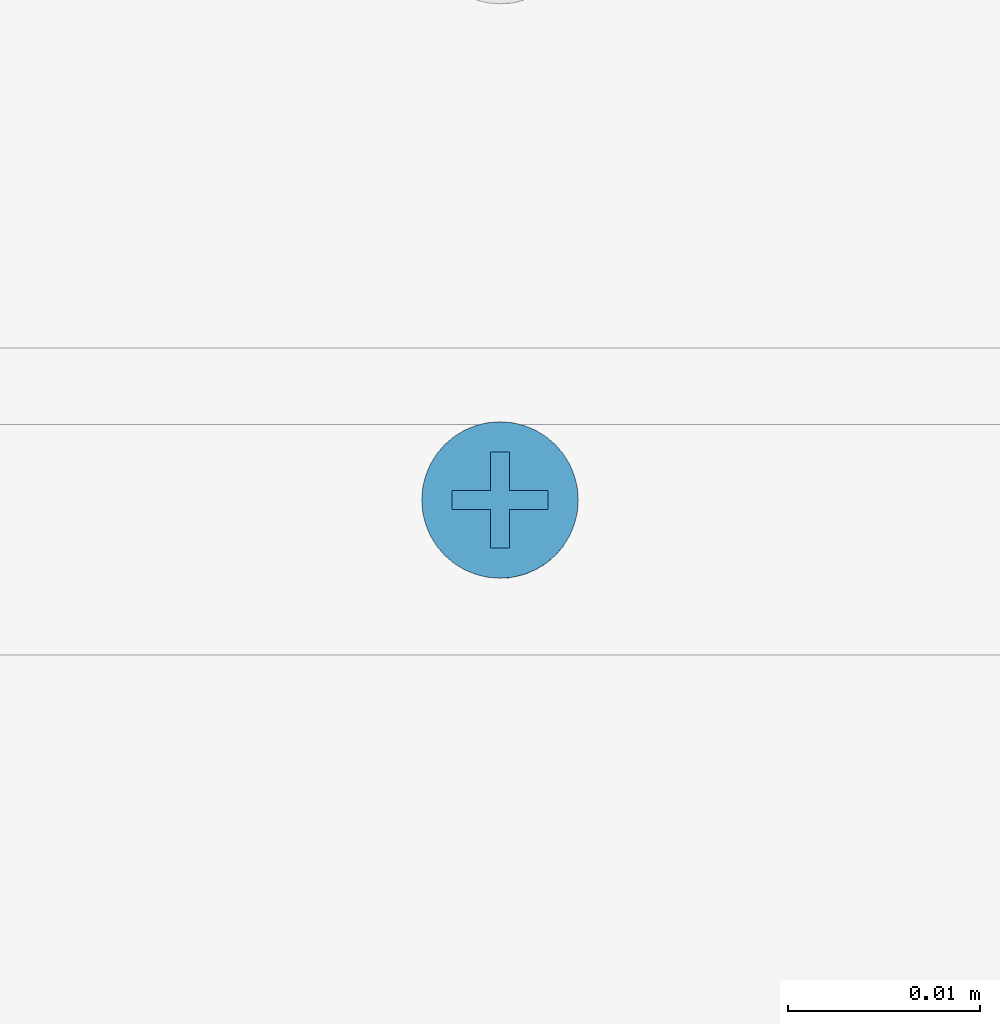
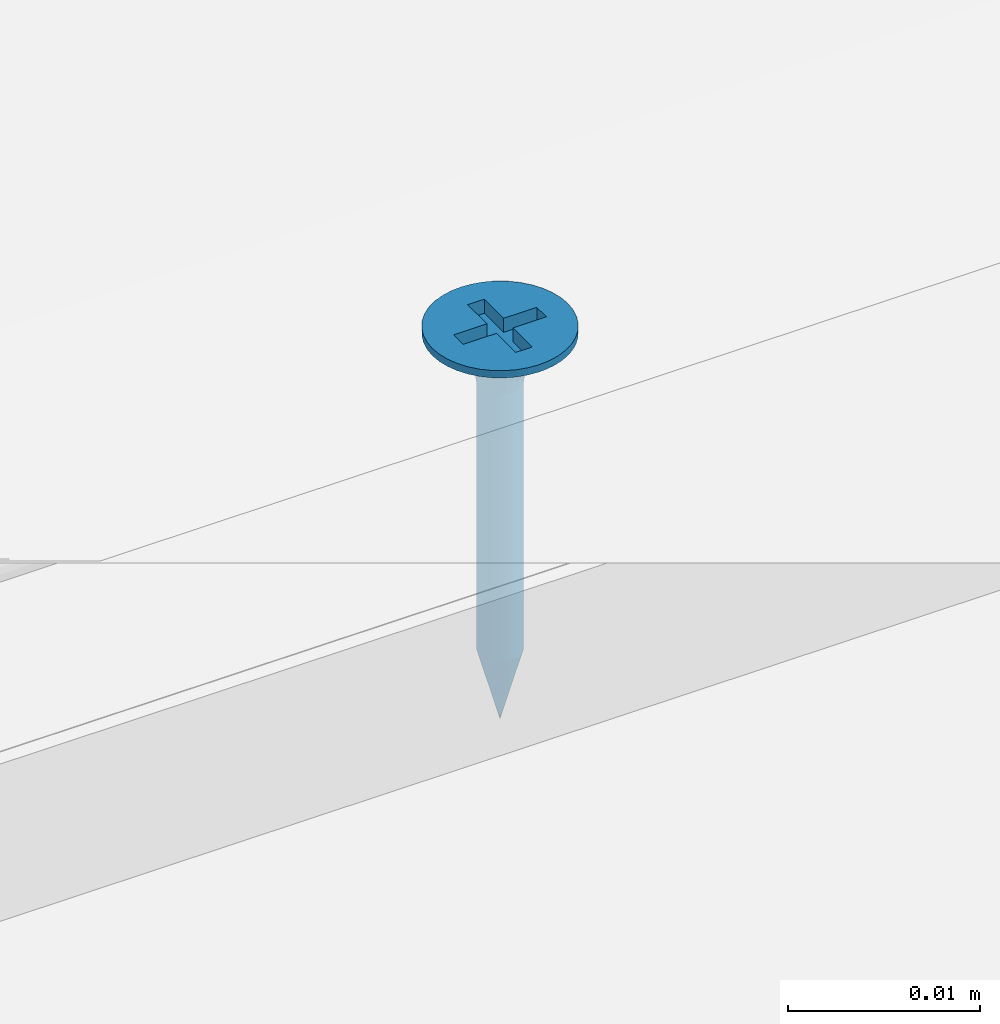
# One storey, part 12 of 38: 1 slab.
"""IFC2X3 building model written with IfcOpenShell, lengths in millimetres."""

from ifc_helpers import new_model, entity, si_unit, converted_unit, direction, frame, origin, origin_with_axes, place, context, project, spatial, faceted_brep, element, save


model = new_model("IFC2X3")

# Units and contexts
model_context = context("Model", 3, precision=1e-05, world=origin(), true_north=direction((0.0, 1.0, 0.0)))
ifc_project = project(units=[si_unit("LENGTHUNIT", "METRE", prefix="MILLI"), si_unit("AREAUNIT", "SQUARE_METRE"), si_unit("VOLUMEUNIT", "CUBIC_METRE"), converted_unit("PLANEANGLEUNIT", "DEGREE", entity("IfcPlaneAngleMeasure", 0.01745), si_unit("PLANEANGLEUNIT", "RADIAN"), dimensions=[0, 0, 0, 0, 0, 0, 0]), si_unit("SOLIDANGLEUNIT", "STERADIAN"), si_unit("MASSUNIT", "GRAM"), si_unit("TIMEUNIT", "SECOND"), si_unit("THERMODYNAMICTEMPERATUREUNIT", "DEGREE_CELSIUS"), si_unit("LUMINOUSINTENSITYUNIT", "LUMEN")], contexts=[model_context])

# Site, building, storey
site_placement = place(None, origin_with_axes())
site = spatial("IfcSite", under=ifc_project, at=site_placement, Name="Default Site", CompositionType="ELEMENT")
building_placement = place(site_placement, origin_with_axes())
building = spatial("IfcBuilding", under=site, at=building_placement, Name="Default Building", CompositionType="ELEMENT")
storey_placement = place(building_placement, origin_with_axes())
storey = spatial("IfcBuildingStorey", under=building, at=storey_placement, Name="Default Building Storey", CompositionType="ELEMENT", Elevation=0.0)

# Slab
slab_placement = place(storey_placement, frame((2135.048962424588, 928.4586075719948, -3328.636918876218), z_axis=(-3.700634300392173e-13, 1.0, -1.897141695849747e-12), x_axis=(-1.0, -3.700634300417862e-13, -1.354137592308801e-12)))
element("IfcSlab", 1, at=slab_placement, inside=storey, Name="Wkręt RIGIPS Rigidur 3,9x19 mm", context=model_context, shape_type="Brep", body=[
    faceted_brep([(-141.5377463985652, 3390.556721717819, 555.8000000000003), (-141.5377463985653, 3391.020944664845, 555.8000000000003), (-141.4875329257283, 3391.020944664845, 555.1619773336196), (-141.4875329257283, 3390.556721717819, 555.1619773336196), (-141.3381289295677, 3391.020944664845, 554.5396649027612), (-141.3381289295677, 3390.556721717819, 554.5396649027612), (-141.0932132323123, 3391.020944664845, 553.9483861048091), (-141.0932132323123, 3390.556721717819, 553.9483861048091), (-140.7588164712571, 3391.020944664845, 553.4027001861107), (-140.7588164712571, 3390.556721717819, 553.4027001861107), (-140.3431726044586, 3391.020944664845, 552.9160437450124), (-140.4541727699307, 3390.556721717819, 553.0314907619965), (-140.1080097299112, 3390.556721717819, 552.6986614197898), (-139.8565161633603, 3391.020944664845, 552.5003998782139), (-139.7251262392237, 3390.556721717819, 552.4088262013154), (-139.310830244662, 3391.020944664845, 552.1660031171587), (-139.310830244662, 3390.556721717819, 552.1660031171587), (-138.8708651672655, 3390.556721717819, 551.9735584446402), (-138.7195514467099, 3391.020944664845, 551.9210874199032), (-138.4113302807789, 3390.556721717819, 551.8341600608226), (-137.9385961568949, 3390.556721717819, 551.7497404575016), (-138.0972390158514, 3391.020944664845, 551.7716834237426), (-137.4592163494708, 3391.020944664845, 551.7214699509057), (-137.4592163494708, 3390.556721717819, 551.7214699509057), (-136.8211936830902, 3391.020944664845, 551.7716834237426), (-136.8211936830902, 3390.556721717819, 551.7716834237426), (-136.1988812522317, 3391.020944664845, 551.9210874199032), (-136.1988812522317, 3390.556721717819, 551.9210874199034), (-135.6076024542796, 3391.020944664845, 552.1660031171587), (-135.6076024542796, 3390.556721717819, 552.1660031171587), (-135.0619165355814, 3391.020944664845, 552.5003998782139), (-135.0619165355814, 3390.556721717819, 552.5003998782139), (-134.575260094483, 3391.020944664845, 552.9160437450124), (-134.575260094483, 3390.556721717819, 552.9160437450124), (-134.1596162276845, 3391.020944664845, 553.4027001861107), (-134.1596162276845, 3390.556721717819, 553.4027001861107), (-133.8252194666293, 3391.020944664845, 553.9483861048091), (-133.8252194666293, 3390.556721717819, 553.9483861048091), (-133.5803037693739, 3391.020944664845, 554.5396649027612), (-133.5803037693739, 3390.556721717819, 554.5396649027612), (-133.4308997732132, 3391.020944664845, 556.4380226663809), (-133.4308997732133, 3390.556721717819, 556.4380226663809), (-133.3806863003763, 3390.556721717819, 555.8000000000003), (-133.3806863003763, 3391.020944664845, 555.8000000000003), (-133.4308997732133, 3390.556721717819, 555.1619773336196), (-133.4308997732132, 3391.020944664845, 555.1619773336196), (-133.5803037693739, 3391.020944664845, 557.0603350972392), (-133.5803037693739, 3390.556721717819, 557.0603350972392), (-133.8252194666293, 3391.020944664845, 557.6516138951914), (-133.8252194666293, 3390.556721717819, 557.6516138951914), (-134.1596162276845, 3391.020944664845, 558.1972998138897), (-134.1596162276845, 3390.556721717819, 558.1972998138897), (-134.575260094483, 3391.020944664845, 558.683956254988), (-134.575260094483, 3390.556721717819, 558.683956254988), (-135.0619165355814, 3391.020944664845, 559.0996001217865), (-135.0619165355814, 3390.556721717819, 559.0996001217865), (-135.6076024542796, 3391.020944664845, 559.4339968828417), (-135.6076024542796, 3390.556721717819, 559.4339968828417), (-136.1988812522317, 3391.020944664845, 559.6789125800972), (-136.1988812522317, 3390.556721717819, 559.6789125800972), (-136.8211936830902, 3391.020944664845, 559.8283165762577), (-136.8211936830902, 3390.556721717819, 559.8283165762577), (-137.4592163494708, 3391.020944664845, 559.8785300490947), (-137.4592163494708, 3390.556721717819, 559.8785300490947), (-138.0972390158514, 3391.020944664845, 559.8283165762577), (-138.0972390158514, 3390.556721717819, 559.8283165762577), (-138.7195514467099, 3391.020944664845, 559.6789125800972), (-138.7195514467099, 3390.556721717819, 559.6789125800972), (-139.310830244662, 3391.020944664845, 559.4339968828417), (-139.310830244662, 3390.556721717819, 559.4339968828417), (-139.8565161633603, 3391.020944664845, 559.0996001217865), (-139.8565161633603, 3390.556721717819, 559.0996001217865), (-140.3431726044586, 3391.020944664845, 558.683956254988), (-140.3431726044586, 3390.556721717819, 558.683956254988), (-140.7588164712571, 3391.020944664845, 558.1972998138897), (-140.7588164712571, 3390.556721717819, 558.1972998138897), (-141.0932132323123, 3391.020944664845, 557.6516138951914), (-141.0932132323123, 3390.556721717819, 557.6516138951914), (-141.3381289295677, 3391.020944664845, 557.0603350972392), (-141.3381289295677, 3390.556721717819, 557.0603350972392), (-141.4875329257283, 3391.020944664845, 556.4380226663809), (-141.4875329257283, 3390.556721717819, 556.4380226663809), (-137.80606154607, 3388.229732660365, 554.5055560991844), (-137.4592163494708, 3387.475459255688, 554.5693795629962), (-137.6517277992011, 3387.475459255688, 554.5845305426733), (-137.4592163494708, 3388.229732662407, 554.4598930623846), (-137.8394989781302, 3387.475459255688, 554.6296104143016), (-138.1292698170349, 3388.229732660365, 554.639433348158), (-138.0179063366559, 3387.475459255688, 554.7035091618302), (-138.1825568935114, 3387.475459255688, 554.804407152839), (-138.4068150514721, 3388.229732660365, 554.8524012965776), (-138.3293964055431, 3387.475459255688, 554.929819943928), (-138.6197830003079, 3388.229732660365, 555.1299465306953), (-138.4548091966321, 3387.475459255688, 555.0766594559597), (-138.5557071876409, 3387.475459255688, 555.2413100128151), (-138.7536602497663, 3388.229732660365, 555.4531548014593), (-138.6296059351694, 3387.475459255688, 555.4197173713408), (-138.6746858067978, 3387.475459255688, 555.60748855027), (-138.7993232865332, 3388.229732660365, 555.7999999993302), (-138.6898367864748, 3387.475459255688, 555.8000000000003), (-138.753660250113, 3388.229732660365, 556.1468451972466), (-138.6746858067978, 3387.475459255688, 555.9925114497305), (-138.6296059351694, 3387.475459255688, 556.1802826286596), (-138.619783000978, 3388.229732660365, 556.4700534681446), (-138.5557071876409, 3387.475459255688, 556.3586899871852), (-138.4548091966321, 3387.475459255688, 556.5233405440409), (-138.4068150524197, 3388.229732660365, 556.7475987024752), (-138.3293964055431, 3387.475459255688, 556.6701800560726), (-138.1292698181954, 3388.229732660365, 556.9605666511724), (-138.1825568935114, 3387.475459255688, 556.7955928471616), (-138.0179063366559, 3387.475459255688, 556.8964908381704), (-137.8060615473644, 3388.229732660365, 557.0944439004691), (-137.8394989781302, 3387.475459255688, 556.9703895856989), (-137.6517277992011, 3387.475459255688, 557.0154694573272), (-137.4592163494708, 3388.229732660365, 557.1401069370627), (-137.4592163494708, 3387.475459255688, 557.0306204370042), (-137.1123711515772, 3388.229732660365, 557.0944439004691), (-137.2667048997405, 3387.475459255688, 557.0154694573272), (-137.0789337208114, 3387.475459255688, 556.9703895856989), (-136.7891628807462, 3388.229732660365, 556.9605666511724), (-136.9005263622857, 3387.475459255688, 556.8964908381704), (-136.7358758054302, 3387.475459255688, 556.7955928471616), (-136.5116176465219, 3388.229732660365, 556.7475987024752), (-136.5890362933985, 3387.475459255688, 556.6701800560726), (-136.2986496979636, 3388.229732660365, 556.4700534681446), (-136.4636235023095, 3387.475459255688, 556.5233405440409), (-136.3627255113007, 3387.475459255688, 556.3586899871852), (-136.1647724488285, 3388.229732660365, 556.1468451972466), (-136.2888267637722, 3387.475459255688, 556.1802826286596), (-136.2437468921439, 3387.475459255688, 555.9925114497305), (-136.1191094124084, 3388.229732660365, 555.7999999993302), (-136.2285959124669, 3387.475459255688, 555.8000000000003), (-136.1647724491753, 3388.229732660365, 555.4531548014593), (-136.2437468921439, 3387.475459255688, 555.60748855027), (-136.2888267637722, 3387.475459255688, 555.4197173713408), (-136.2986496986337, 3388.229732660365, 555.1299465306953), (-136.3627255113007, 3387.475459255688, 555.2413100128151), (-136.4636235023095, 3387.475459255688, 555.0766594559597), (-136.5116176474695, 3388.229732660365, 554.8524012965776), (-136.5890362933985, 3387.475459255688, 554.929819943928), (-136.7891628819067, 3388.229732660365, 554.639433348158), (-136.7358758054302, 3387.475459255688, 554.804407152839), (-136.9005263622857, 3387.475459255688, 554.7035091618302), (-137.1123711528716, 3388.229732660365, 554.5055560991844), (-137.0789337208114, 3387.475459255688, 554.6296104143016), (-137.2667048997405, 3387.475459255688, 554.5845305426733), (-137.4592163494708, 3388.936142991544, 554.1737111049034), (-137.8801308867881, 3388.936142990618, 554.229125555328), (-138.2723607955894, 3388.936142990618, 554.3915925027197), (-138.6091762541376, 3388.936142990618, 554.6500400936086), (-138.8676238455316, 3388.936142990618, 554.9868555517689), (-139.0300907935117, 3388.936142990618, 555.3790854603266), (-139.0855052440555, 3388.936142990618, 555.7999999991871), (-139.0300907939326, 3388.936142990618, 556.2209145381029), (-138.8676238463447, 3388.936142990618, 556.6131444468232), (-138.6091762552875, 3388.936142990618, 556.9499599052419), (-138.2723607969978, 3388.936142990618, 557.2084074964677), (-137.880130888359, 3388.936142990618, 557.3708744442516), (-137.4592163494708, 3388.936142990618, 557.426288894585), (-137.0383018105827, 3388.936142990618, 557.3708744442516), (-136.6460719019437, 3388.936142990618, 557.2084074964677), (-136.3092564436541, 3388.936142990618, 556.9499599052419), (-136.0508088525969, 3388.936142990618, 556.6131444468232), (-135.8883419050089, 3388.936142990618, 556.2209145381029), (-135.8329274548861, 3388.936142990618, 555.7999999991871), (-135.8883419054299, 3388.936142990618, 555.3790854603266), (-136.05080885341, 3388.936142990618, 554.9868555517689), (-136.309256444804, 3388.936142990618, 554.6500400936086), (-136.6460719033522, 3388.936142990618, 554.3915925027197), (-137.0383018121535, 3388.936142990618, 554.229125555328), (-137.4592163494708, 3389.553938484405, 553.7273431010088), (-137.9956594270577, 3389.553938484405, 553.7979671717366), (-138.4955447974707, 3389.553938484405, 554.005026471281), (-138.9248060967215, 3389.553938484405, 554.3344102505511), (-139.2541898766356, 3389.553938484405, 554.7636715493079), (-139.4612491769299, 3389.553938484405, 555.2635569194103), (-139.5318732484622, 3389.553938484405, 555.7999999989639), (-139.4612491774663, 3389.553938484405, 556.3364430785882), (-139.2541898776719, 3389.553938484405, 556.8363284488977), (-138.9248060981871, 3389.553938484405, 557.2655897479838), (-138.4955447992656, 3389.553938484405, 557.594973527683), (-137.9956594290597, 3389.553938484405, 557.8020328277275), (-137.4592163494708, 3389.553938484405, 557.8726568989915), (-136.9227732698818, 3389.553938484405, 557.8020328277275), (-136.4228878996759, 3389.553938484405, 557.594973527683), (-135.9936266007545, 3389.553938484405, 557.2655897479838), (-135.6642428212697, 3389.553938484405, 556.8363284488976), (-135.4571835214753, 3389.553938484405, 556.3364430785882), (-135.3865594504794, 3389.553938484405, 555.7999999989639), (-135.4571835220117, 3389.553938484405, 555.2635569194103), (-135.664242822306, 3389.553938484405, 554.7636715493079), (-135.9936266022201, 3389.553938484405, 554.3344102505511), (-136.4228879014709, 3389.553938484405, 554.005026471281), (-136.9227732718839, 3389.553938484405, 553.7979671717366), (-137.4592163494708, 3390.047479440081, 553.1465393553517), (-138.1459824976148, 3390.047479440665, 553.2369538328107), (-138.7859466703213, 3390.047479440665, 553.5020356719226), (-139.3354963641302, 3390.047479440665, 553.9237199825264), (-139.7571806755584, 3390.047479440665, 554.4732696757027), (-140.0222625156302, 3390.047479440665, 555.1132338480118), (-140.1126769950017, 3390.047479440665, 555.7999999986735), (-140.0222625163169, 3390.047479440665, 556.4867661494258), (-139.7571806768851, 3390.047479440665, 557.1267303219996), (-139.3354963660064, 3390.047479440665, 557.6762800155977), (-138.7859466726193, 3390.047479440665, 558.0979643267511), (-138.1459825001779, 3390.047479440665, 558.3630461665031), (-137.4592163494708, 3390.047479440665, 558.4534606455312), (-136.7724501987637, 3390.047479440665, 558.3630461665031), (-136.1324860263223, 3390.047479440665, 558.0979643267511), (-135.5829363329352, 3390.047479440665, 557.6762800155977), (-135.1612520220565, 3390.047479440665, 557.1267303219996), (-134.8961701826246, 3390.047479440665, 556.4867661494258), (-134.8057557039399, 3390.047479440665, 555.7999999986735), (-134.8961701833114, 3390.047479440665, 555.1132338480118), (-135.1612520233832, 3390.047479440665, 554.4732696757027), (-135.5829363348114, 3390.047479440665, 553.9237199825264), (-136.1324860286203, 3390.047479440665, 553.5020356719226), (-136.7724502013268, 3390.047479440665, 553.2369538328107), (-137.4592163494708, 3390.388294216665, 552.4648055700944), (-138.3224281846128, 3390.388294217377, 552.578449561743), (-139.1268135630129, 3390.388294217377, 552.9116368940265), (-139.8175549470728, 3390.388294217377, 553.4416613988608), (-140.3475794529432, 3390.388294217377, 554.1324027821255), (-140.6807667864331, 3390.388294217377, 554.9367881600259), (-140.7944107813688, 3390.388294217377, 555.7999999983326), (-140.6807667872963, 3390.388294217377, 556.6632118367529), (-140.3475794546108, 3390.388294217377, 557.4675972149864), (-139.8175549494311, 3390.388294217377, 558.1583385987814), (-139.1268135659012, 3390.388294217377, 558.6883631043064), (-138.3224281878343, 3390.388294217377, 559.0215504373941), (-137.4592163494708, 3390.388294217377, 559.1351944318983), (-136.5960045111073, 3390.388294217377, 559.0215504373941), (-135.7916191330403, 3390.388294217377, 558.6883631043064), (-135.1008777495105, 3390.388294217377, 558.1583385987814), (-134.5708532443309, 3390.388294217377, 557.4675972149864), (-134.2376659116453, 3390.388294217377, 556.6632118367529), (-134.1240219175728, 3390.388294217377, 555.7999999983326), (-134.2376659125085, 3390.388294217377, 554.9367881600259), (-134.5708532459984, 3390.388294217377, 554.1324027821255), (-135.1008777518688, 3390.388294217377, 553.4416613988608), (-135.7916191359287, 3390.388294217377, 552.9116368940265), (-136.5960045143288, 3390.388294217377, 552.578449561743), (-138.6898367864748, 3370.55807436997, 555.8000000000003), (-138.6746858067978, 3370.55807436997, 555.60748855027), (-138.6296059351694, 3370.55807436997, 555.4197173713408), (-138.5557071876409, 3370.55807436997, 555.2413100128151), (-138.4548091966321, 3370.55807436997, 555.0766594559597), (-138.3293964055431, 3370.55807436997, 554.929819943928), (-138.1825568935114, 3370.55807436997, 554.804407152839), (-138.0179063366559, 3370.55807436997, 554.7035091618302), (-137.8394989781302, 3370.55807436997, 554.6296104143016), (-137.6517277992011, 3370.55807436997, 554.5845305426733), (-137.4592163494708, 3370.55807436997, 554.5693795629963), (-137.2667048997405, 3370.55807436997, 554.5845305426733), (-137.0789337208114, 3370.55807436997, 554.6296104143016), (-136.9005263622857, 3370.55807436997, 554.7035091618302), (-136.7358758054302, 3370.55807436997, 554.804407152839), (-136.5890362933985, 3370.55807436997, 554.929819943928), (-136.4636235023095, 3370.55807436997, 555.0766594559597), (-136.3627255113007, 3370.55807436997, 555.2413100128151), (-136.2888267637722, 3370.55807436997, 555.4197173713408), (-136.2437468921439, 3370.55807436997, 555.9925114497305), (-136.2285959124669, 3370.55807436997, 555.8000000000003), (-136.2437468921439, 3370.55807436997, 555.60748855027), (-136.2888267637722, 3370.55807436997, 556.1802826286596), (-136.3627255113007, 3370.55807436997, 556.3586899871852), (-136.4636235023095, 3370.55807436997, 556.5233405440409), (-136.5890362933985, 3370.55807436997, 556.6701800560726), (-136.7358758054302, 3370.55807436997, 556.7955928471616), (-136.9005263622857, 3370.55807436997, 556.8964908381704), (-137.0789337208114, 3370.55807436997, 556.9703895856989), (-137.2667048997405, 3370.55807436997, 557.0154694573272), (-137.4592163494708, 3370.55807436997, 557.0306204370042), (-137.6517277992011, 3370.55807436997, 557.0154694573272), (-137.8394989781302, 3370.55807436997, 556.9703895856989), (-138.0179063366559, 3370.55807436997, 556.8964908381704), (-138.1825568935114, 3370.55807436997, 556.7955928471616), (-138.3293964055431, 3370.55807436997, 556.6701800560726), (-138.4548091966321, 3370.55807436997, 556.5233405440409), (-138.5557071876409, 3370.55807436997, 556.3586899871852), (-138.6296059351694, 3370.55807436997, 556.1802826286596), (-138.6746858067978, 3370.55807436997, 555.9925114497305), (-137.4592163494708, 3366.021033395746, 555.8000000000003), (-139.9592163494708, 3391.020944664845, 556.3000000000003), (-137.9592163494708, 3391.020944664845, 556.3000000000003), (-139.9592163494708, 3391.020944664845, 555.3000000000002), (-137.9592163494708, 3391.020944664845, 555.3000000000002), (-137.9592163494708, 3391.020944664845, 553.3000000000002), (-136.9592163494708, 3391.020944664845, 553.3000000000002), (-136.9592163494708, 3391.020944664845, 555.3000000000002), (-134.9592163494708, 3391.020944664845, 555.3000000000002), (-134.9592163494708, 3391.020944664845, 556.3000000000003), (-136.9592163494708, 3391.020944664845, 556.3000000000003), (-136.9592163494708, 3391.020944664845, 558.3000000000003), (-137.9592163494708, 3391.020944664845, 558.3000000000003), (-136.9592163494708, 3390.128974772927, 556.3000000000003), (-134.9592163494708, 3390.128974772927, 556.3000000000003), (-134.9592163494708, 3390.128974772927, 555.3000000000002), (-136.9592163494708, 3390.128974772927, 555.3000000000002), (-136.9592163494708, 3390.128974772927, 553.3000000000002), (-137.9592163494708, 3390.128974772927, 553.3000000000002), (-137.9592163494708, 3390.128974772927, 555.3000000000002), (-139.9592163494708, 3390.128974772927, 555.3000000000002), (-139.9592163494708, 3390.128974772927, 556.3000000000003), (-137.9592163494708, 3390.128974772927, 556.3000000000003), (-137.9592163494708, 3390.128974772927, 558.3000000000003), (-136.9592163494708, 3390.128974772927, 558.3000000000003)], [[[0, 1, 2, 3]], [[4, 5, 3, 2]], [[6, 7, 5, 4]], [[7, 6, 8, 9]], [[8, 10, 9]], [[10, 11, 9]], [[12, 11, 13]], [[11, 10, 13]], [[13, 14, 12]], [[13, 15, 14]], [[15, 16, 14]], [[17, 16, 18]], [[16, 15, 18]], [[18, 19, 17]], [[20, 19, 21]], [[19, 18, 21]], [[21, 22, 20]], [[22, 23, 20]], [[23, 22, 24, 25]], [[26, 27, 25, 24]], [[28, 29, 27, 26]], [[29, 28, 30, 31]], [[32, 33, 31, 30]], [[33, 32, 34, 35]], [[36, 37, 35, 34]], [[38, 39, 37, 36]], [[40, 41, 42, 43]], [[43, 42, 44, 45]], [[39, 38, 45, 44]], [[46, 47, 41, 40]], [[48, 49, 47, 46]], [[49, 48, 50, 51]], [[52, 53, 51, 50]], [[53, 52, 54, 55]], [[56, 57, 55, 54]], [[58, 59, 57, 56]], [[59, 58, 60, 61]], [[62, 63, 61, 60]], [[63, 62, 64, 65]], [[66, 67, 65, 64]], [[68, 69, 67, 66]], [[69, 68, 70, 71]], [[72, 73, 71, 70]], [[73, 72, 74, 75]], [[76, 77, 75, 74]], [[78, 79, 77, 76]], [[79, 78, 80, 81]], [[1, 0, 81, 80]], [[82, 83, 84]], [[82, 85, 83]], [[84, 86, 82]], [[82, 86, 87]], [[88, 87, 86]], [[87, 88, 89]], [[89, 90, 87]], [[89, 91, 90]], [[92, 91, 93]], [[92, 90, 91]], [[93, 94, 92]], [[92, 94, 95]], [[96, 95, 94]], [[95, 96, 97]], [[97, 98, 95]], [[97, 99, 98]], [[100, 99, 101]], [[100, 98, 99]], [[101, 102, 100]], [[100, 102, 103]], [[104, 103, 102]], [[103, 104, 105]], [[105, 106, 103]], [[105, 107, 106]], [[108, 107, 109]], [[108, 106, 107]], [[109, 110, 108]], [[108, 110, 111]], [[112, 111, 110]], [[111, 112, 113]], [[113, 114, 111]], [[113, 115, 114]], [[116, 115, 117]], [[116, 114, 115]], [[117, 118, 116]], [[116, 118, 119]], [[120, 119, 118]], [[119, 120, 121]], [[121, 122, 119]], [[121, 123, 122]], [[124, 123, 125]], [[124, 122, 123]], [[125, 126, 124]], [[124, 126, 127]], [[128, 127, 126]], [[127, 128, 129]], [[129, 130, 127]], [[129, 131, 130]], [[132, 131, 133]], [[132, 130, 131]], [[133, 134, 132]], [[132, 134, 135]], [[136, 135, 134]], [[135, 136, 137]], [[137, 138, 135]], [[137, 139, 138]], [[140, 139, 141]], [[140, 138, 139]], [[141, 142, 140]], [[140, 142, 143]], [[144, 143, 142]], [[143, 144, 145]], [[145, 85, 143]], [[145, 83, 85]], [[146, 85, 147]], [[82, 147, 85]], [[87, 148, 147, 82]], [[90, 149, 148, 87]], [[92, 150, 149, 90]], [[95, 151, 150, 92]], [[98, 152, 151, 95]], [[100, 153, 152, 98]], [[103, 154, 153, 100]], [[106, 155, 154, 103]], [[108, 156, 155, 106]], [[111, 157, 156, 108]], [[114, 158, 157, 111]], [[116, 159, 158, 114]], [[119, 160, 159, 116]], [[122, 161, 160, 119]], [[124, 162, 161, 122]], [[127, 163, 162, 124]], [[130, 164, 163, 127]], [[132, 165, 164, 130]], [[135, 166, 165, 132]], [[138, 167, 166, 135]], [[140, 168, 167, 138]], [[143, 169, 168, 140]], [[143, 85, 169]], [[146, 169, 85]], [[170, 146, 171]], [[147, 171, 146]], [[148, 172, 171, 147]], [[149, 173, 172, 148]], [[150, 174, 173, 149]], [[151, 175, 174, 150]], [[152, 176, 175, 151]], [[153, 177, 176, 152]], [[154, 178, 177, 153]], [[155, 179, 178, 154]], [[156, 180, 179, 155]], [[157, 181, 180, 156]], [[158, 182, 181, 157]], [[159, 183, 182, 158]], [[160, 184, 183, 159]], [[161, 185, 184, 160]], [[162, 186, 185, 161]], [[163, 187, 186, 162]], [[164, 188, 187, 163]], [[165, 189, 188, 164]], [[166, 190, 189, 165]], [[167, 191, 190, 166]], [[168, 192, 191, 167]], [[169, 193, 192, 168]], [[169, 146, 193]], [[170, 193, 146]], [[194, 170, 195]], [[171, 195, 170]], [[172, 196, 195, 171]], [[173, 197, 196, 172]], [[174, 198, 197, 173]], [[175, 199, 198, 174]], [[176, 200, 199, 175]], [[177, 201, 200, 176]], [[178, 202, 201, 177]], [[179, 203, 202, 178]], [[180, 204, 203, 179]], [[181, 205, 204, 180]], [[182, 206, 205, 181]], [[183, 207, 206, 182]], [[184, 208, 207, 183]], [[185, 209, 208, 184]], [[186, 210, 209, 185]], [[187, 211, 210, 186]], [[188, 212, 211, 187]], [[189, 213, 212, 188]], [[190, 214, 213, 189]], [[191, 215, 214, 190]], [[192, 216, 215, 191]], [[193, 217, 216, 192]], [[193, 170, 217]], [[194, 217, 170]], [[218, 19, 20]], [[218, 219, 19]], [[20, 23, 218]], [[218, 194, 219]], [[195, 219, 194]], [[219, 16, 17]], [[219, 220, 16]], [[17, 19, 219]], [[196, 220, 219, 195]], [[221, 11, 12]], [[220, 12, 14]], [[220, 221, 12]], [[14, 16, 220]], [[197, 221, 220, 196]], [[222, 7, 9]], [[9, 221, 222]], [[9, 11, 221]], [[198, 222, 221, 197]], [[5, 7, 223]], [[222, 223, 7]], [[199, 223, 222, 198]], [[223, 0, 3]], [[223, 224, 0]], [[3, 5, 223]], [[200, 224, 223, 199]], [[225, 79, 81]], [[81, 224, 225]], [[81, 0, 224]], [[201, 225, 224, 200]], [[225, 226, 77, 79]], [[202, 226, 225, 201]], [[226, 73, 75]], [[226, 227, 73]], [[75, 77, 226]], [[203, 227, 226, 202]], [[228, 69, 71]], [[71, 227, 228]], [[71, 73, 227]], [[204, 228, 227, 203]], [[228, 229, 67, 69]], [[205, 229, 228, 204]], [[229, 63, 65]], [[229, 230, 63]], [[65, 67, 229]], [[206, 230, 229, 205]], [[231, 59, 61]], [[61, 230, 231]], [[61, 63, 230]], [[207, 231, 230, 206]], [[231, 232, 57, 59]], [[208, 232, 231, 207]], [[232, 53, 55]], [[232, 233, 53]], [[55, 57, 232]], [[209, 233, 232, 208]], [[234, 49, 51]], [[51, 233, 234]], [[51, 53, 233]], [[210, 234, 233, 209]], [[234, 235, 47, 49]], [[211, 235, 234, 210]], [[235, 42, 41]], [[235, 236, 42]], [[41, 47, 235]], [[212, 236, 235, 211]], [[237, 39, 44]], [[44, 236, 237]], [[44, 42, 236]], [[213, 237, 236, 212]], [[37, 39, 238]], [[237, 238, 39]], [[214, 238, 237, 213]], [[238, 33, 35]], [[238, 239, 33]], [[35, 37, 238]], [[215, 239, 238, 214]], [[240, 29, 31]], [[31, 239, 240]], [[31, 33, 239]], [[216, 240, 239, 215]], [[27, 29, 241]], [[240, 241, 29]], [[217, 241, 240, 216]], [[217, 194, 241]], [[218, 241, 194]], [[241, 23, 25]], [[241, 218, 23]], [[25, 27, 241]], [[242, 99, 97, 243]], [[96, 244, 243, 97]], [[94, 245, 244, 96]], [[245, 94, 93, 246]], [[91, 247, 246, 93]], [[247, 91, 89, 248]], [[88, 249, 248, 89]], [[86, 250, 249, 88]], [[250, 86, 84, 251]], [[83, 252, 251, 84]], [[252, 83, 145, 253]], [[144, 254, 253, 145]], [[142, 255, 254, 144]], [[255, 142, 141, 256]], [[139, 257, 256, 141]], [[257, 139, 137, 258]], [[136, 259, 258, 137]], [[134, 260, 259, 136]], [[129, 261, 262, 131]], [[131, 262, 263, 133]], [[260, 134, 133, 263]], [[128, 264, 261, 129]], [[126, 265, 264, 128]], [[265, 126, 125, 266]], [[123, 267, 266, 125]], [[267, 123, 121, 268]], [[120, 269, 268, 121]], [[118, 270, 269, 120]], [[270, 118, 117, 271]], [[115, 272, 271, 117]], [[272, 115, 113, 273]], [[112, 274, 273, 113]], [[110, 275, 274, 112]], [[275, 110, 109, 276]], [[107, 277, 276, 109]], [[277, 107, 105, 278]], [[104, 279, 278, 105]], [[102, 280, 279, 104]], [[280, 102, 101, 281]], [[99, 242, 281, 101]], [[243, 244, 282]], [[282, 242, 243]], [[244, 245, 282]], [[246, 247, 282]], [[282, 245, 246]], [[248, 249, 282]], [[282, 247, 248]], [[249, 250, 282]], [[251, 252, 282]], [[282, 250, 251]], [[253, 254, 282]], [[282, 252, 253]], [[254, 255, 282]], [[256, 257, 282]], [[282, 255, 256]], [[258, 259, 282]], [[282, 257, 258]], [[259, 260, 282]], [[263, 262, 282]], [[282, 260, 263]], [[261, 264, 282]], [[282, 262, 261]], [[264, 265, 282]], [[266, 267, 282]], [[282, 265, 266]], [[268, 269, 282]], [[282, 267, 268]], [[269, 270, 282]], [[271, 272, 282]], [[282, 270, 271]], [[273, 274, 282]], [[282, 272, 273]], [[274, 275, 282]], [[276, 277, 282]], [[282, 275, 276]], [[278, 279, 282]], [[282, 277, 278]], [[279, 280, 282]], [[281, 242, 282]], [[282, 280, 281]], [[283, 76, 74, 284]], [[283, 285, 286, 287, 288, 289, 290, 291, 292, 293, 294, 284, 74, 72, 70, 68, 66, 64, 62, 60, 58, 56, 54, 52, 50, 48, 46, 40, 43, 45, 38, 36, 34, 32, 30, 28, 26, 24, 22, 21, 18, 15, 13, 10, 8, 6, 4, 2, 1, 80, 78, 76]], [[295, 296, 297, 298, 299, 300, 301, 302, 303, 304, 305, 306]], [[297, 290, 289, 298]], [[296, 291, 290, 297]], [[295, 292, 291, 296]], [[306, 293, 292, 295]], [[305, 294, 293, 306]], [[304, 284, 294, 305]], [[303, 283, 284, 304]], [[302, 285, 283, 303]], [[301, 286, 285, 302]], [[300, 287, 286, 301]], [[299, 288, 287, 300]], [[298, 289, 288, 299]]]),
])

save(model, "model.ifc")
